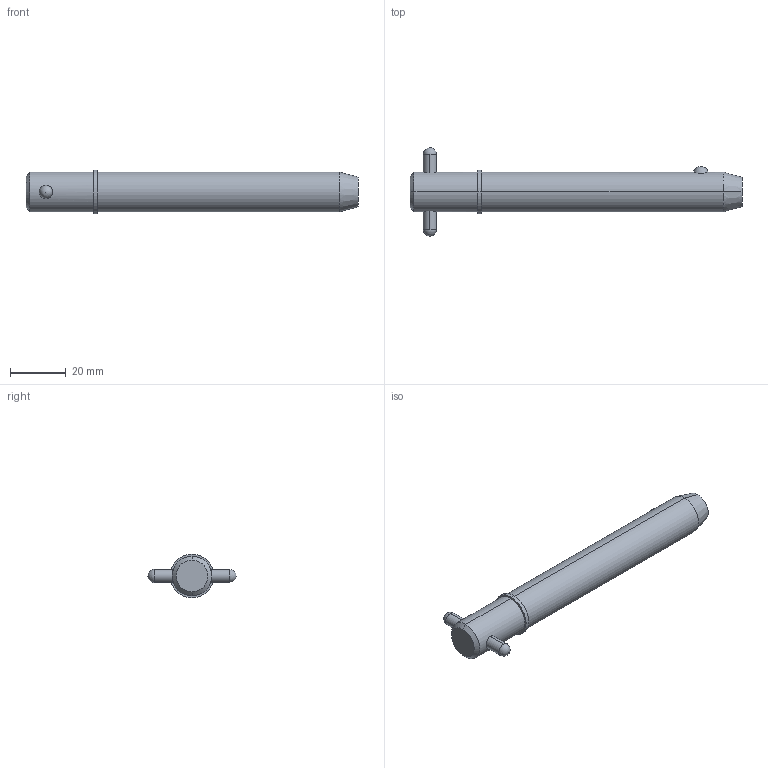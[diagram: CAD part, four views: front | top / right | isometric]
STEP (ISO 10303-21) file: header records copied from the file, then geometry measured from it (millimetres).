
FILE_DESCRIPTION (( 'STEP AP203' ), '1' );
FILE_NAME ('33018.W5630.step', '2024-11-19T17:16:50', ( '' ), ( '' ), 'SwSTEP 2.0', 'SolidWorks 2019', '' );
FILE_SCHEMA (( 'CONFIG_CONTROL_DESIGN' ));
Length unit declared in the file: millimetre
Products named in the file (3): Part2_33018.W5630; Part1_33018.W5630; 33018.W5630
Assembly tree (2 placements, depth 2):
  33018.W5630
    Part1_33018.W5630
    Part2_33018.W5630
Bounding box: 119.35 x 31.75 x 15.72 mm (x, y, z)
Volume: 19217.2 mm3; surface area: 6276.4 mm2
Topology: 2 solids, 2 shells, 22 faces, 47 edges, 30 vertices
Faces by surface type: cylinder 10, sphere 4, cone 4, plane 4
Entity records: 1033 total; most frequent: CARTESIAN_POINT 276, DIRECTION 110, ORIENTED_EDGE 82, AXIS2_PLACEMENT_3D 48, EDGE_CURVE 41, EDGE_LOOP 27, PERSON_AND_ORGANIZATION 26, VERTEX_POINT 26
